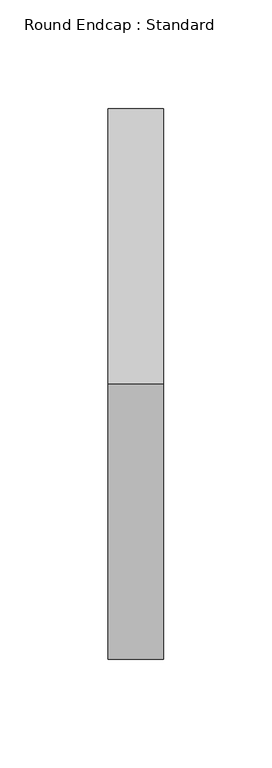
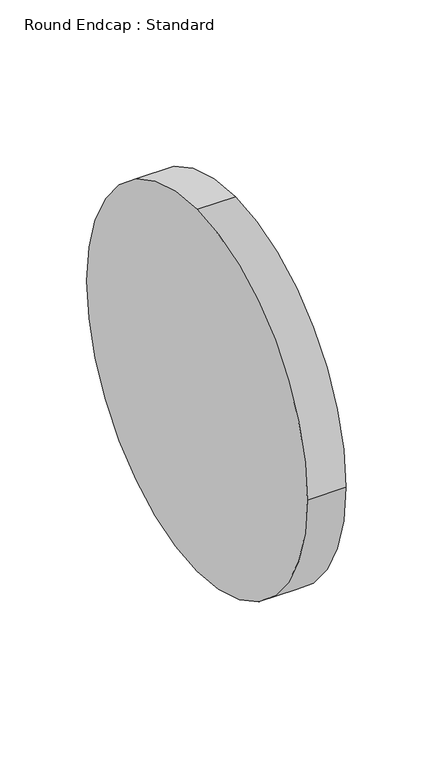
"""IFC4 building model written with IfcOpenShell, lengths in millimetres: duct fitting geometry, Round Endcap : Standard."""

from ifc_helpers import new_model, si_unit, point, frame, origin, origin_2d, place, context, project, spatial, circle_curve, trimmed, segment, composite_curve, outline, extrude, source, transform, mapped, element, save


def round_endcap_standard_477732a8(model_context):
    return source(origin(), model_context, "Body", "SweptSolid", [
        extrude(outline(composite_curve([segment(trimmed(circle_curve(origin_2d(), 127.0), [point((0.0, 127.0))], [point((127.0, 0.0))], False, "CARTESIAN"), True, "CONTINUOUS"), segment(trimmed(circle_curve(origin_2d(), 127.0), [point((127.0, 0.0))], [point((0.0, -127.0))], False, "CARTESIAN"), True, "CONTINUOUS"), segment(trimmed(circle_curve(origin_2d(), 127.0), [point((0.0, -127.0))], [point((-127.0, 0.0))], False, "CARTESIAN"), True, "CONTINUOUS"), segment(trimmed(circle_curve(origin_2d(), 127.0), [point((-127.0, 0.0))], [point((0.0, 127.0))], False, "CARTESIAN"), True, "CONTINUOUS")], self_intersect=False)), frame((0.0, 0.0, 0.0), z_axis=(1.0, 0.0, 0.0), x_axis=(0.0, 1.0, 0.0)), (0.0, 0.0, 1.0), 25.4),
    ])


if __name__ == "__main__":
    model = new_model("IFC4")
    model_context = context("Model", 3, world=origin())
    ifc_project = project(units=[si_unit("LENGTHUNIT", "METRE", prefix="MILLI")], contexts=[model_context])
    site = spatial("IfcSite", under=ifc_project)
    building = spatial("IfcBuilding", under=site)
    placement = place(None, origin())
    round_endcap_standard_shape = round_endcap_standard_477732a8(model_context)
    element("IfcDuctFitting", 1, ObjectType="Round Endcap : Standard", at=placement, inside=building, context=model_context, shape_type="MappedRepresentation", body=[
        mapped(round_endcap_standard_shape, transform((0.0, 0.0, 0.0), x_axis=(1.0, 0.0, 0.0), y_axis=(0.0, 1.0, 0.0), z_axis=(0.0, 0.0, 1.0))),
    ])
    save(model, "model.ifc")
